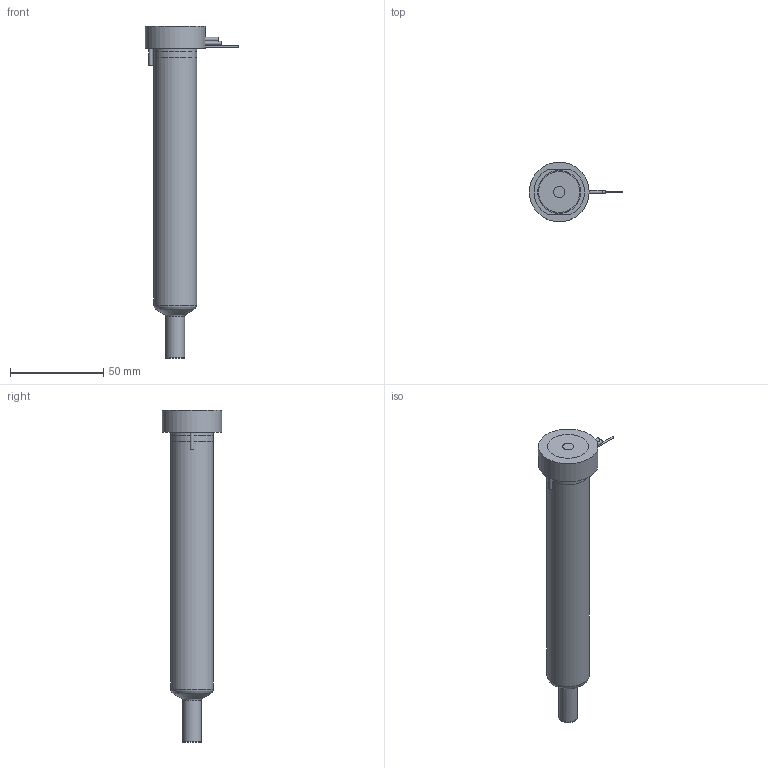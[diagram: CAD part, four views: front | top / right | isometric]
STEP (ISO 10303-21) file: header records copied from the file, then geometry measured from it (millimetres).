
FILE_DESCRIPTION(/* description */ (''),/* implementation_level */ '2;1');
FILE_NAME(/* name */ 'MXYCN13145P4F_200C_a',/* time_stamp */ '2016-02-26T13:43:35+13:00',/* author */ (''),/* organization */ (''),/* preprocessor_version */ 'ST-DEVELOPER v9',/* originating_system */ 'UGS - NX 4.0',/* authorisation */ '');
FILE_SCHEMA (('CONFIG_CONTROL_DESIGN'));
Length unit declared in the file: millimetre
Products named in the file (1): matt70754g20
Bounding box: 49.95 x 32 x 177.66 mm (x, y, z)
Volume: 115749.9 mm3; surface area: 25951.5 mm2
Topology: 2 solids, 2 shells, 71 faces, 156 edges, 102 vertices
Faces by surface type: plane 31, cylinder 26, torus 7, cone 5, bspline 1, sphere 1
Full cylindrical faces by diameter (mm): 1 x2, 1.8 x1, 2 x3, 4 x1, 6 x1, 9.61 x1, 9.995 x2, 12.6 x1, 18.8 x1, 22.9 x1, 23 x2, 32 x1
Entity records: 2121 total; most frequent: CARTESIAN_POINT 614, DIRECTION 314, ORIENTED_EDGE 234, AXIS2_PLACEMENT_3D 141, EDGE_CURVE 117, EDGE_LOOP 114, VERTEX_POINT 91, ADVANCED_FACE 71
